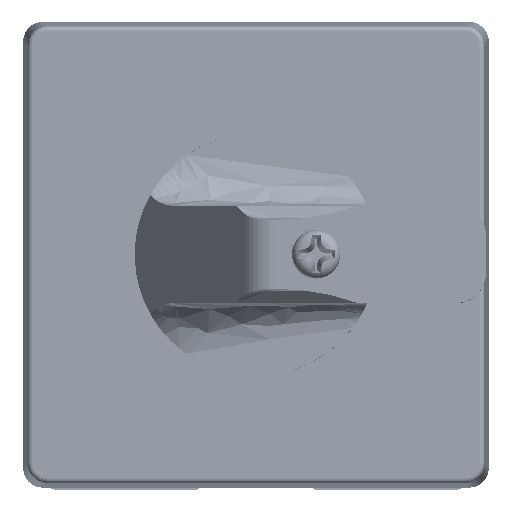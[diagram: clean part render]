
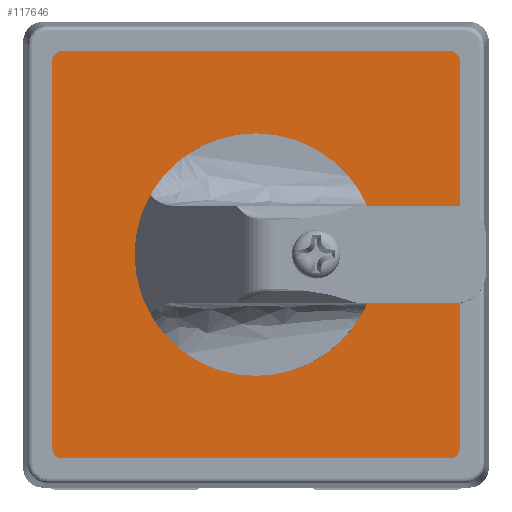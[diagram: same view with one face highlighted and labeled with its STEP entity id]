
A CAD part, top view. The second image highlights one B-rep face of the part: STEP entity #117646.
In plain terms, the highlighted planar face has unit normal (0, 0, 1).
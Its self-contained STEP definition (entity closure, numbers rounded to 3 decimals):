
#7956 = CARTESIAN_POINT ( 'NONE',  ( 26.361, -25.111, -5.982 ) ) ;
#11207 = EDGE_LOOP ( 'NONE', ( #354967, #273567 ) ) ;
#12458 = LINE ( 'NONE', #96882, #157331 ) ;
#21392 = LINE ( 'NONE', #116885, #133596 ) ;
#23454 = DIRECTION ( 'NONE',  ( 0., 0., 1. ) ) ;
#28224 = EDGE_CURVE ( 'NONE', #313562, #237774, #341529, .T. ) ;
#30477 = EDGE_CURVE ( 'NONE', #292604, #323804, #228009, .T. ) ;
#41911 = CIRCLE ( 'NONE', #378181, 1. ) ;
#46921 = EDGE_CURVE ( 'NONE', #321658, #385799, #12458, .T. ) ;
#52278 = VERTEX_POINT ( 'NONE', #321648 ) ;
#59461 = CARTESIAN_POINT ( 'NONE',  ( 6.361, -5.111, -5.982 ) ) ;
#64264 = CARTESIAN_POINT ( 'NONE',  ( 26.361, -26.111, -5.982 ) ) ;
#70785 = EDGE_CURVE ( 'NONE', #385799, #292604, #108913, .T. ) ;
#79421 = CARTESIAN_POINT ( 'NONE',  ( -13.639, 15.889, -5.982 ) ) ;
#80708 = DIRECTION ( 'NONE',  ( -1., 0., 0. ) ) ;
#90659 = CIRCLE ( 'NONE', #108722, 1. ) ;
#92451 = PLANE ( 'NONE',  #134434 ) ;
#93168 = DIRECTION ( 'NONE',  ( 0., 0., 1. ) ) ;
#96882 = CARTESIAN_POINT ( 'NONE',  ( -14.639, 14.889, -5.982 ) ) ;
#96975 = CARTESIAN_POINT ( 'NONE',  ( 6.361, -5.111, -5.982 ) ) ;
#97388 = CARTESIAN_POINT ( 'NONE',  ( -13.639, -25.111, -5.982 ) ) ;
#100698 = FACE_OUTER_BOUND ( 'NONE', #220912, .T. ) ;
#107690 = CARTESIAN_POINT ( 'NONE',  ( -13.639, -26.111, -5.982 ) ) ;
#108722 = AXIS2_PLACEMENT_3D ( 'NONE', #7956, #93168, #217234 ) ;
#108913 = CIRCLE ( 'NONE', #254992, 1. ) ;
#111170 = CARTESIAN_POINT ( 'NONE',  ( 26.361, 14.889, -5.982 ) ) ;
#112873 = EDGE_CURVE ( 'NONE', #136327, #313562, #215070, .T. ) ;
#116885 = CARTESIAN_POINT ( 'NONE',  ( 27.361, 14.889, -5.982 ) ) ;
#117646 = ADVANCED_FACE ( 'NONE', ( #100698, #138202 ), #92451, .T. ) ;
#123904 = AXIS2_PLACEMENT_3D ( 'NONE', #96975, #126940, #129488 ) ;
#126940 = DIRECTION ( 'NONE',  ( 0., 0., 1. ) ) ;
#129488 = DIRECTION ( 'NONE',  ( 1., 0., 0. ) ) ;
#129613 = EDGE_CURVE ( 'NONE', #52278, #209659, #373751, .T. ) ;
#133596 = VECTOR ( 'NONE', #359837, 1000. ) ;
#134434 = AXIS2_PLACEMENT_3D ( 'NONE', #274091, #215238, #301431 ) ;
#134994 = CARTESIAN_POINT ( 'NONE',  ( -3.989, -5.111, -5.982 ) ) ;
#136327 = VERTEX_POINT ( 'NONE', #381165 ) ;
#137608 = ORIENTED_EDGE ( 'NONE', *, *, #347735, .T. ) ;
#138202 = FACE_BOUND ( 'NONE', #11207, .T. ) ;
#139199 = EDGE_CURVE ( 'NONE', #209659, #52278, #158055, .T. ) ;
#154844 = DIRECTION ( 'NONE',  ( -1., 0., 0. ) ) ;
#157331 = VECTOR ( 'NONE', #301992, 1000. ) ;
#158055 = CIRCLE ( 'NONE', #164030, 10.35 ) ;
#164030 = AXIS2_PLACEMENT_3D ( 'NONE', #59461, #211064, #331084 ) ;
#165143 = ORIENTED_EDGE ( 'NONE', *, *, #28224, .T. ) ;
#176319 = DIRECTION ( 'NONE',  ( 1., 0., 0. ) ) ;
#187287 = ORIENTED_EDGE ( 'NONE', *, *, #70785, .T. ) ;
#192361 = AXIS2_PLACEMENT_3D ( 'NONE', #111170, #23454, #176319 ) ;
#209659 = VERTEX_POINT ( 'NONE', #134994 ) ;
#211064 = DIRECTION ( 'NONE',  ( 0., 0., 1. ) ) ;
#215070 = CIRCLE ( 'NONE', #192361, 1. ) ;
#215238 = DIRECTION ( 'NONE',  ( 0., 0., 1. ) ) ;
#217234 = DIRECTION ( 'NONE',  ( -1., 0., 0. ) ) ;
#220685 = EDGE_CURVE ( 'NONE', #237774, #321658, #41911, .T. ) ;
#220912 = EDGE_LOOP ( 'NONE', ( #265548, #165143, #292439, #377560, #187287, #232410, #225563, #137608 ) ) ;
#225563 = ORIENTED_EDGE ( 'NONE', *, *, #242227, .T. ) ;
#228009 = LINE ( 'NONE', #107690, #377607 ) ;
#230072 = CARTESIAN_POINT ( 'NONE',  ( -13.639, -26.111, -5.982 ) ) ;
#232410 = ORIENTED_EDGE ( 'NONE', *, *, #30477, .T. ) ;
#237774 = VERTEX_POINT ( 'NONE', #287227 ) ;
#239246 = DIRECTION ( 'NONE',  ( -1., 0., 0. ) ) ;
#242227 = EDGE_CURVE ( 'NONE', #323804, #350174, #90659, .T. ) ;
#254992 = AXIS2_PLACEMENT_3D ( 'NONE', #97388, #278977, #154844 ) ;
#265548 = ORIENTED_EDGE ( 'NONE', *, *, #112873, .T. ) ;
#273567 = ORIENTED_EDGE ( 'NONE', *, *, #129613, .F. ) ;
#274091 = CARTESIAN_POINT ( 'NONE',  ( 26.361, 14.889, -5.982 ) ) ;
#278977 = DIRECTION ( 'NONE',  ( 0., 0., 1. ) ) ;
#285752 = VECTOR ( 'NONE', #80708, 1000. ) ;
#287227 = CARTESIAN_POINT ( 'NONE',  ( -13.639, 15.889, -5.982 ) ) ;
#287791 = CARTESIAN_POINT ( 'NONE',  ( -14.639, -25.111, -5.982 ) ) ;
#292439 = ORIENTED_EDGE ( 'NONE', *, *, #220685, .T. ) ;
#292604 = VERTEX_POINT ( 'NONE', #230072 ) ;
#296019 = CARTESIAN_POINT ( 'NONE',  ( -14.639, 14.889, -5.982 ) ) ;
#296776 = CARTESIAN_POINT ( 'NONE',  ( -13.639, 14.889, -5.982 ) ) ;
#301431 = DIRECTION ( 'NONE',  ( 1., 0., 0. ) ) ;
#301992 = DIRECTION ( 'NONE',  ( 0., -1., 0. ) ) ;
#313562 = VERTEX_POINT ( 'NONE', #374704 ) ;
#317998 = DIRECTION ( 'NONE',  ( 1., 0., 0. ) ) ;
#319124 = CARTESIAN_POINT ( 'NONE',  ( 27.361, -25.111, -5.982 ) ) ;
#321648 = CARTESIAN_POINT ( 'NONE',  ( 16.711, -5.111, -5.982 ) ) ;
#321658 = VERTEX_POINT ( 'NONE', #296019 ) ;
#323804 = VERTEX_POINT ( 'NONE', #64264 ) ;
#331084 = DIRECTION ( 'NONE',  ( 1., 0., 0. ) ) ;
#341529 = LINE ( 'NONE', #79421, #285752 ) ;
#347735 = EDGE_CURVE ( 'NONE', #350174, #136327, #21392, .T. ) ;
#350174 = VERTEX_POINT ( 'NONE', #319124 ) ;
#354967 = ORIENTED_EDGE ( 'NONE', *, *, #139199, .F. ) ;
#359427 = DIRECTION ( 'NONE',  ( 0., 0., 1. ) ) ;
#359837 = DIRECTION ( 'NONE',  ( 0., 1., 0. ) ) ;
#373751 = CIRCLE ( 'NONE', #123904, 10.35 ) ;
#374704 = CARTESIAN_POINT ( 'NONE',  ( 26.361, 15.889, -5.982 ) ) ;
#377560 = ORIENTED_EDGE ( 'NONE', *, *, #46921, .T. ) ;
#377607 = VECTOR ( 'NONE', #317998, 1000. ) ;
#378181 = AXIS2_PLACEMENT_3D ( 'NONE', #296776, #359427, #239246 ) ;
#381165 = CARTESIAN_POINT ( 'NONE',  ( 27.361, 14.889, -5.982 ) ) ;
#385799 = VERTEX_POINT ( 'NONE', #287791 ) ;
